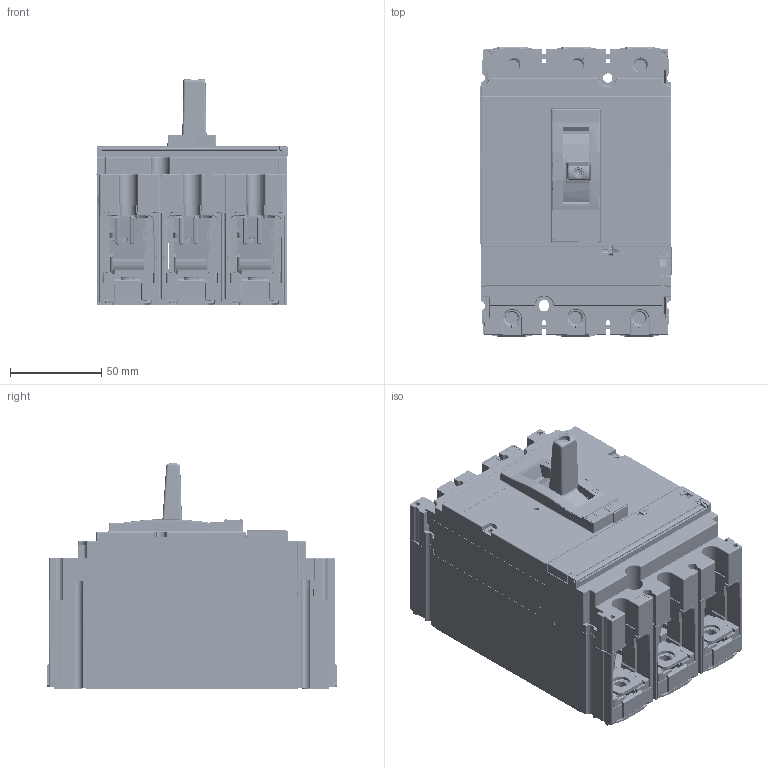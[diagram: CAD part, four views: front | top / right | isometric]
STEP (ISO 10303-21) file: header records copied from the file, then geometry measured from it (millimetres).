
FILE_DESCRIPTION(('STEP AP242'),'1');
FILE_NAME('lv510304.stp','2021-09-29T05:48:14',('TraceParts'),('TraceParts S.A.'),'Spatial InterOp 3D',' ',' ');
FILE_SCHEMA(('AP242_MANAGED_MODEL_BASED_3D_ENGINEERING_MIM_LF {1 0 10303 442 1 1 4}'));
Length unit declared in the file: millimetre
Products named in the file (1): lv510304_1
Bounding box: 104.9 x 159.23 x 124.21 mm (x, y, z)
Volume: 1109227.2 mm3; surface area: 397196 mm2
Topology: 51 solids, 105 shells, 7449 faces, 19973 edges, 12783 vertices
Faces by surface type: plane 4439, cylinder 2245, torus 440, bspline 158, cone 106, sphere 61
Full cylindrical faces by diameter (mm): 1.65 x2, 2.3 x1, 2.45 x4, 2.5 x1, 2.55 x2, 2.6 x2, 2.8 x1, 3 x4, 3.1 x2, 3.15 x2, 3.2 x2, 3.5 x2, 5.2 x1, 6.25 x1, 6.37 x2, 7 x3, 7.5 x2, 8 x1, 9.2 x1, 10.075 x1
Entity records: 276444 total; most frequent: CARTESIAN_POINT 60123, ORIENTED_EDGE 39706, DIRECTION 38870, EDGE_CURVE 19853, LINE 13380, VECTOR 13380, VERTEX_POINT 12770, AXIS2_PLACEMENT_3D 12745
